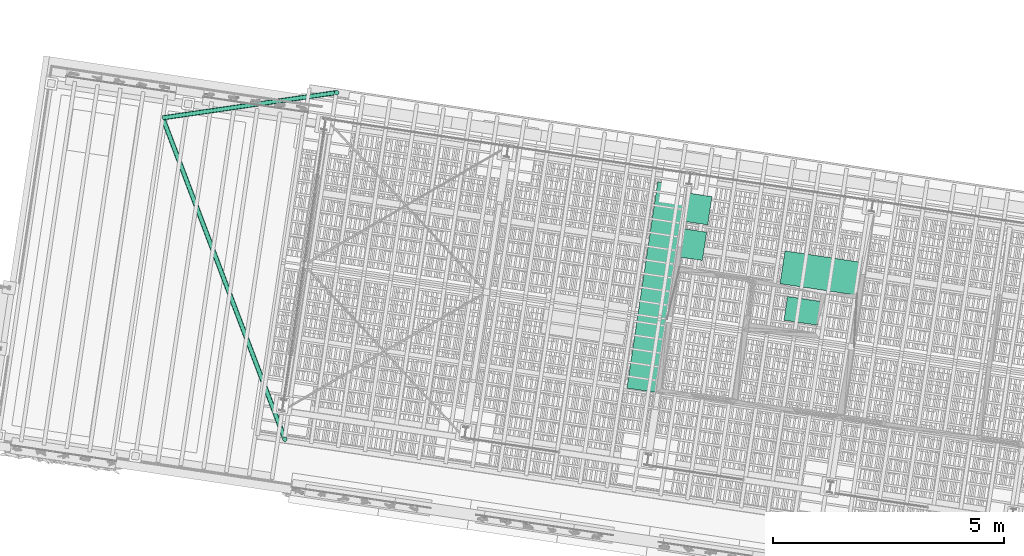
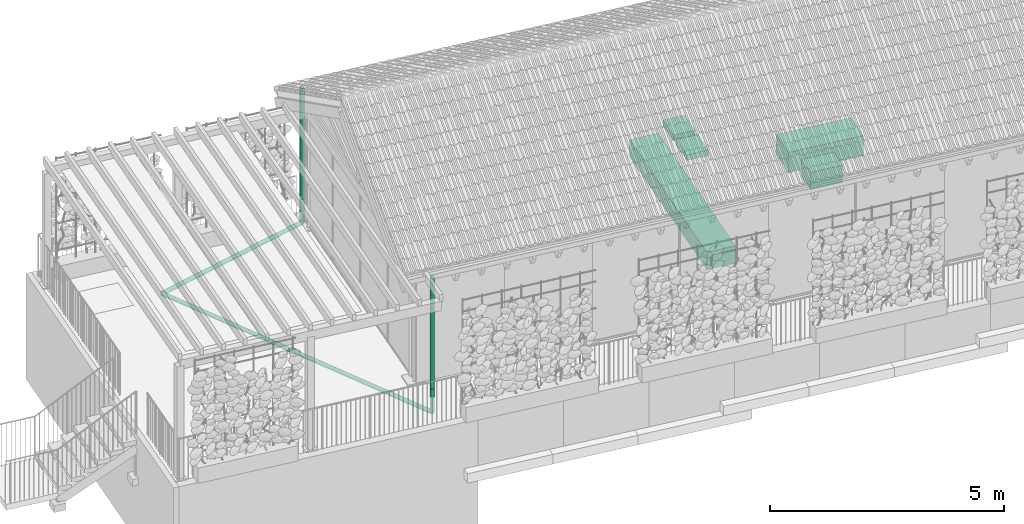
# One storey, part 126 of 128: 6 pipe segments, 5 sanitary terminals.
"""IFC4 building model written with IfcOpenShell, lengths in metres."""

from ifc_helpers import new_model, si_unit, direction, frame, origin_with_axes, place, context, subcontext, project, spatial, polyline, circle, outline, extrude, material, material_profile, profile_set, profile_usage, type_object, element, save


model = new_model("IFC4")

# Units and contexts
model_context = context("Model", 3, precision=1e-05, world=origin_with_axes(), true_north=direction((0.0, 1.0)))
body_context = subcontext(model_context, "Body", "Model", "MODEL_VIEW")
ifc_project = project(units=[si_unit("VOLUMEUNIT", "CUBIC_METRE"), si_unit("LENGTHUNIT", "METRE"), si_unit("AREAUNIT", "SQUARE_METRE")], contexts=[model_context])

# Site, building, storey
site_placement = place(None, origin_with_axes())
site = spatial("IfcSite", under=ifc_project, at=site_placement, Name="Lares · Rua das Mercês · artigo 4771")
building_placement = place(site_placement, frame((15.0, 9.7, 13.9), z_axis=(0.0, 0.0, 1.0), x_axis=(0.989015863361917, -0.147809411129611, 0.0)))
building = spatial("IfcBuilding", under=site, at=building_placement, Name="Casa Sobreposta")
storey_placement = place(building_placement, origin_with_axes())
storey = spatial("IfcBuildingStorey", under=building, at=storey_placement, Name="00 · Habitação e estacionamento", Elevation=13.9)

# Pipe segments
ifc_material_1 = material(Name="Aço galvanizado / Stahl verzinkt", Category="steel")
ifc_material_profile = material_profile(ifc_material_1, circle(Radius=0.05))
ifc_profile_set = profile_set([ifc_material_profile], Name="D0.10")
ifc_profile_usage_1 = profile_usage(ifc_profile_set)
pipe_segment_type = type_object("IfcPipeSegmentType", Name="D0.10 / galvanized", PredefinedType="NOTDEFINED", material=ifc_profile_set)
pipe_segment_1_placement = place(storey_placement, frame((0.15, -0.6, 3.08), z_axis=(0.0, 0.0, -1.0), x_axis=(1.0, 0.0, 0.0)))
element("IfcPipeSegment", 1, at=pipe_segment_1_placement, inside=storey, type_object=pipe_segment_type, material=ifc_profile_usage_1, Name="Pluvial cobertura · circuito limpo até cisterna", context=body_context, shape_type="SweptSolid", body=[
    extrude(circle(Radius=0.05), origin_with_axes(), (0.0, 0.0, 1.0), 2.9),
])
ifc_profile_usage_2 = profile_usage(ifc_profile_set)
pipe_segment_2_placement = place(storey_placement, frame((0.15, -0.6, 0.18), z_axis=(0.0, 0.0, -1.0), x_axis=(1.0, 0.0, 0.0)))
element("IfcPipeSegment", 2, at=pipe_segment_2_placement, inside=storey, type_object=pipe_segment_type, material=ifc_profile_usage_2, Name="Pluvial cobertura · circuito limpo até cisterna", context=body_context, shape_type="SweptSolid", body=[
    extrude(circle(Radius=0.05), origin_with_axes(), (0.0, 0.0, 1.0), 0.63),
])
ifc_profile_usage_3 = profile_usage(ifc_profile_set)
pipe_segment_3_placement = place(storey_placement, frame((0.15, -0.6, -0.45), z_axis=(-0.489448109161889, 0.871619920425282, -0.0268190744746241), x_axis=(0.871933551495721, 0.489624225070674, 0.0)))
element("IfcPipeSegment", 3, at=pipe_segment_3_placement, inside=storey, type_object=pipe_segment_type, material=ifc_profile_usage_3, Name="Pluvial cobertura · circuito limpo até cisterna", context=body_context, shape_type="SweptSolid", body=[
    extrude(circle(Radius=0.05), origin_with_axes(), (0.0, 0.0, 1.0), 7.45737889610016),
])
ifc_profile_usage_4 = profile_usage(ifc_profile_set)
pipe_segment_4_placement = place(storey_placement, frame((0.15, 7.0, 3.08), z_axis=(0.0, 0.0, -1.0), x_axis=(1.0, 0.0, 0.0)))
element("IfcPipeSegment", 4, at=pipe_segment_4_placement, inside=storey, type_object=pipe_segment_type, material=ifc_profile_usage_4, Name="Pluvial cobertura · circuito limpo até cisterna", context=body_context, shape_type="SweptSolid", body=[
    extrude(circle(Radius=0.05), origin_with_axes(), (0.0, 0.0, 1.0), 2.9),
])
ifc_profile_usage_5 = profile_usage(ifc_profile_set)
pipe_segment_5_placement = place(storey_placement, frame((0.15, 7.0, 0.18), z_axis=(0.0, 0.0, -1.0), x_axis=(1.0, 0.0, 0.0)))
element("IfcPipeSegment", 5, at=pipe_segment_5_placement, inside=storey, type_object=pipe_segment_type, material=ifc_profile_usage_5, Name="Pluvial cobertura · circuito limpo até cisterna", context=body_context, shape_type="SweptSolid", body=[
    extrude(circle(Radius=0.05), origin_with_axes(), (0.0, 0.0, 1.0), 0.63),
])
ifc_profile_usage_6 = profile_usage(ifc_profile_set)
pipe_segment_6_placement = place(storey_placement, frame((0.15, 7.0, -0.45), z_axis=(-0.956149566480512, -0.288154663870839, -0.0523917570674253), x_axis=(-0.288550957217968, 0.95746453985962, 0.0)))
element("IfcPipeSegment", 6, at=pipe_segment_6_placement, inside=storey, type_object=pipe_segment_type, material=ifc_profile_usage_6, Name="Pluvial cobertura · circuito limpo até cisterna", context=body_context, shape_type="SweptSolid", body=[
    extrude(circle(Radius=0.05), origin_with_axes(), (0.0, 0.0, 1.0), 3.81739439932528),
])

# Sanitary terminals
ifc_material_2 = material(Name="Cerâmica sanitária — esquema", Category="ceramic")
sanitary_terminal_1_placement = place(storey_placement, origin_with_axes())
element("IfcSanitaryTerminal", 7, at=sanitary_terminal_1_placement, inside=storey, material=ifc_material_2, Name="Banheira", PredefinedType="BATH", context=body_context, shape_type="SweptSolid", body=[
    extrude(outline(polyline([(11.991, 4.32099999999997), (11.991, 5.041), (10.271, 5.041), (10.271, 4.32099999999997), (11.991, 4.32099999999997)])), origin_with_axes(), (0.0, 0.0, 1.0), 0.52),
])
sanitary_terminal_2_placement = place(storey_placement, frame((0.0, 0.0, 0.72), z_axis=(0.0, 0.0, 1.0), x_axis=(1.0, 0.0, 0.0)))
element("IfcSanitaryTerminal", 8, at=sanitary_terminal_2_placement, inside=storey, material=ifc_material_2, Name="Lavatório 1", PredefinedType="WASHHANDBASIN", context=body_context, shape_type="SweptSolid", body=[
    extrude(outline(polyline([(8.53099999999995, 4.57099999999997), (8.53099999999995, 5.19099999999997), (8.03099999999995, 5.19099999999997), (8.03099999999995, 4.57099999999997), (8.53099999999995, 4.57099999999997)])), origin_with_axes(), (0.0, 0.0, 1.0), 0.15),
])
sanitary_terminal_3_placement = place(storey_placement, frame((0.0, 0.0, 0.72), z_axis=(0.0, 0.0, 1.0), x_axis=(1.0, 0.0, 0.0)))
element("IfcSanitaryTerminal", 9, at=sanitary_terminal_3_placement, inside=storey, material=ifc_material_2, Name="Lavatório 2", PredefinedType="WASHHANDBASIN", context=body_context, shape_type="SweptSolid", body=[
    extrude(outline(polyline([(8.53099999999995, 5.351), (8.53099999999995, 5.971), (8.03099999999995, 5.971), (8.03099999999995, 5.351), (8.53099999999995, 5.351)])), origin_with_axes(), (0.0, 0.0, 1.0), 0.15),
])
sanitary_terminal_4_placement = place(storey_placement, origin_with_axes())
element("IfcSanitaryTerminal", 10, at=sanitary_terminal_4_placement, inside=storey, material=ifc_material_2, Name="Sanita", PredefinedType="TOILETPAN", context=body_context, shape_type="SweptSolid", body=[
    extrude(outline(polyline([(11.211, 3.55099999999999), (11.211, 4.07099999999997), (10.471, 4.07099999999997), (10.471, 3.55099999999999), (11.211, 3.55099999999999)])), origin_with_axes(), (0.0, 0.0, 1.0), 0.45),
])
sanitary_terminal_5_placement = place(storey_placement, origin_with_axes())
element("IfcSanitaryTerminal", 11, at=sanitary_terminal_5_placement, inside=storey, material=ifc_material_2, Name="Bancada de cozinha", PredefinedType="TOILETPAN", context=body_context, shape_type="SweptSolid", body=[
    extrude(outline(polyline([(7.98099999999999, 1.59100000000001), (7.98099999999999, 6.11099999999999), (7.32099999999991, 6.11099999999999), (7.32099999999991, 1.59100000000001), (7.98099999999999, 1.59100000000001)])), origin_with_axes(), (0.0, 0.0, 1.0), 0.45),
])

save(model, "model.ifc")
